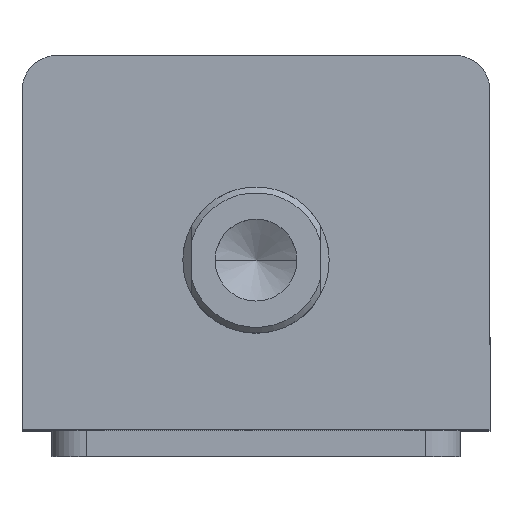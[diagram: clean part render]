
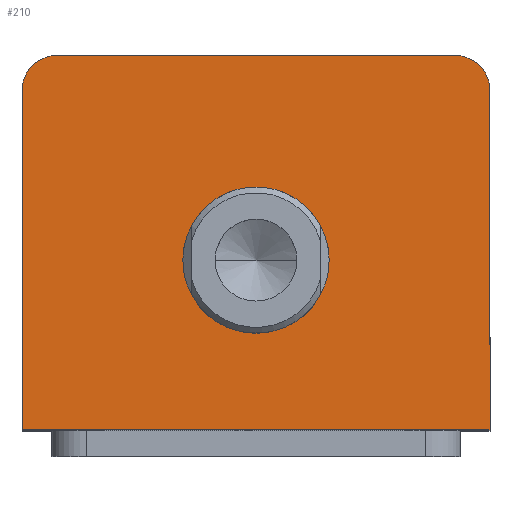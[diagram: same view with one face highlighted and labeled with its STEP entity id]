
A CAD part, top view. The second image highlights one B-rep face of the part: STEP entity #210.
In plain terms, the highlighted planar face has unit normal (0, 0, 1).
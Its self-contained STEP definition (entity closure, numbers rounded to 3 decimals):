
#16 = VERTEX_POINT ( 'NONE', #876 ) ;
#52 = VERTEX_POINT ( 'NONE', #811 ) ;
#67 = VERTEX_POINT ( 'NONE', #772 ) ;
#124 = EDGE_CURVE ( 'NONE', #67, #52, #2485, .T. ) ;
#132 = EDGE_CURVE ( 'NONE', #52, #945, #2495, .T. ) ;
#142 = EDGE_CURVE ( 'NONE', #941, #969, #2508, .T. ) ;
#210 = ADVANCED_FACE ( 'NONE', ( #2595, #2599 ), #3466, .T. ) ;
#328 = EDGE_CURVE ( 'NONE', #935, #657, #1133, .T. ) ;
#347 = DIRECTION ( 'NONE',  ( 1., 0., 0. ) ) ;
#349 = DIRECTION ( 'NONE',  ( 0., 0., 1. ) ) ;
#350 = CARTESIAN_POINT ( 'NONE',  ( 0., -3., 155. ) ) ;
#413 = CARTESIAN_POINT ( 'NONE',  ( 12.5, -3., 155. ) ) ;
#427 = DIRECTION ( 'NONE',  ( 1., 0., 0. ) ) ;
#428 = DIRECTION ( 'NONE',  ( 0., 0., 1. ) ) ;
#429 = CARTESIAN_POINT ( 'NONE',  ( 0., -3., 155. ) ) ;
#612 = EDGE_LOOP ( 'NONE', ( #2219, #2218, #2217, #2216, #2215, #2214 ) ) ;
#632 = EDGE_LOOP ( 'NONE', ( #2221, #2220 ) ) ;
#657 = VERTEX_POINT ( 'NONE', #413 ) ;
#698 = DIRECTION ( 'NONE',  ( 1., 0., 0. ) ) ;
#699 = DIRECTION ( 'NONE',  ( 0., 0., 1. ) ) ;
#700 = CARTESIAN_POINT ( 'NONE',  ( 34., 26., 155. ) ) ;
#743 = DIRECTION ( 'NONE',  ( 0., 1., 0. ) ) ;
#745 = CARTESIAN_POINT ( 'NONE',  ( 40., 32., 155. ) ) ;
#772 = CARTESIAN_POINT ( 'NONE',  ( 40., -32., 155. ) ) ;
#811 = CARTESIAN_POINT ( 'NONE',  ( 40., 26., 155. ) ) ;
#876 = CARTESIAN_POINT ( 'NONE',  ( -40., -32., 155. ) ) ;
#910 = EDGE_CURVE ( 'NONE', #657, #935, #1142, .T. ) ;
#917 = EDGE_CURVE ( 'NONE', #969, #16, #1168, .T. ) ;
#935 = VERTEX_POINT ( 'NONE', #2992 ) ;
#941 = VERTEX_POINT ( 'NONE', #2979 ) ;
#945 = VERTEX_POINT ( 'NONE', #2970 ) ;
#969 = VERTEX_POINT ( 'NONE', #3139 ) ;
#1133 = CIRCLE ( 'NONE', #1881, 12.5 ) ;
#1142 = CIRCLE ( 'NONE', #1884, 12.5 ) ;
#1168 = LINE ( 'NONE', #3059, #1171 ) ;
#1171 = VECTOR ( 'NONE', #3046, 1000. ) ;
#1328 = LINE ( 'NONE', #3183, #1331 ) ;
#1331 = VECTOR ( 'NONE', #3179, 1000. ) ;
#1356 = LINE ( 'NONE', #3236, #1359 ) ;
#1359 = VECTOR ( 'NONE', #3235, 1000. ) ;
#1752 = AXIS2_PLACEMENT_3D ( 'NONE', #700, #699, #698 ) ;
#1759 = AXIS2_PLACEMENT_3D ( 'NONE', #3573, #3578, #3566 ) ;
#1805 = AXIS2_PLACEMENT_3D ( 'NONE', #3471, #3464, #3463 ) ;
#1881 = AXIS2_PLACEMENT_3D ( 'NONE', #429, #428, #427 ) ;
#1884 = AXIS2_PLACEMENT_3D ( 'NONE', #350, #349, #347 ) ;
#2214 = ORIENTED_EDGE ( 'NONE', *, *, #132, .T. ) ;
#2215 = ORIENTED_EDGE ( 'NONE', *, *, #124, .T. ) ;
#2216 = ORIENTED_EDGE ( 'NONE', *, *, #3283, .T. ) ;
#2217 = ORIENTED_EDGE ( 'NONE', *, *, #917, .T. ) ;
#2218 = ORIENTED_EDGE ( 'NONE', *, *, #142, .T. ) ;
#2219 = ORIENTED_EDGE ( 'NONE', *, *, #3299, .T. ) ;
#2220 = ORIENTED_EDGE ( 'NONE', *, *, #328, .F. ) ;
#2221 = ORIENTED_EDGE ( 'NONE', *, *, #910, .F. ) ;
#2485 = LINE ( 'NONE', #745, #2489 ) ;
#2489 = VECTOR ( 'NONE', #743, 1000. ) ;
#2495 = CIRCLE ( 'NONE', #1752, 6. ) ;
#2508 = CIRCLE ( 'NONE', #1759, 6. ) ;
#2595 = FACE_BOUND ( 'NONE', #632, .T. ) ;
#2599 = FACE_OUTER_BOUND ( 'NONE', #612, .T. ) ;
#2970 = CARTESIAN_POINT ( 'NONE',  ( 34., 32., 155. ) ) ;
#2979 = CARTESIAN_POINT ( 'NONE',  ( -34., 32., 155. ) ) ;
#2992 = CARTESIAN_POINT ( 'NONE',  ( -12.5, -3., 155. ) ) ;
#3046 = DIRECTION ( 'NONE',  ( 0., -1., 0. ) ) ;
#3059 = CARTESIAN_POINT ( 'NONE',  ( -40., 32., 155. ) ) ;
#3139 = CARTESIAN_POINT ( 'NONE',  ( -40., 26., 155. ) ) ;
#3179 = DIRECTION ( 'NONE',  ( 1., 0., 0. ) ) ;
#3183 = CARTESIAN_POINT ( 'NONE',  ( -40., -32., 155. ) ) ;
#3235 = DIRECTION ( 'NONE',  ( -1., 0., 0. ) ) ;
#3236 = CARTESIAN_POINT ( 'NONE',  ( -40., 32., 155. ) ) ;
#3283 = EDGE_CURVE ( 'NONE', #16, #67, #1328, .T. ) ;
#3299 = EDGE_CURVE ( 'NONE', #945, #941, #1356, .T. ) ;
#3463 = DIRECTION ( 'NONE',  ( 1., 0., 0. ) ) ;
#3464 = DIRECTION ( 'NONE',  ( 0., 0., 1. ) ) ;
#3466 = PLANE ( 'NONE',  #1805 ) ;
#3471 = CARTESIAN_POINT ( 'NONE',  ( 0., 0., 155. ) ) ;
#3566 = DIRECTION ( 'NONE',  ( 1., 0., 0. ) ) ;
#3573 = CARTESIAN_POINT ( 'NONE',  ( -34., 26., 155. ) ) ;
#3578 = DIRECTION ( 'NONE',  ( 0., 0., 1. ) ) ;
